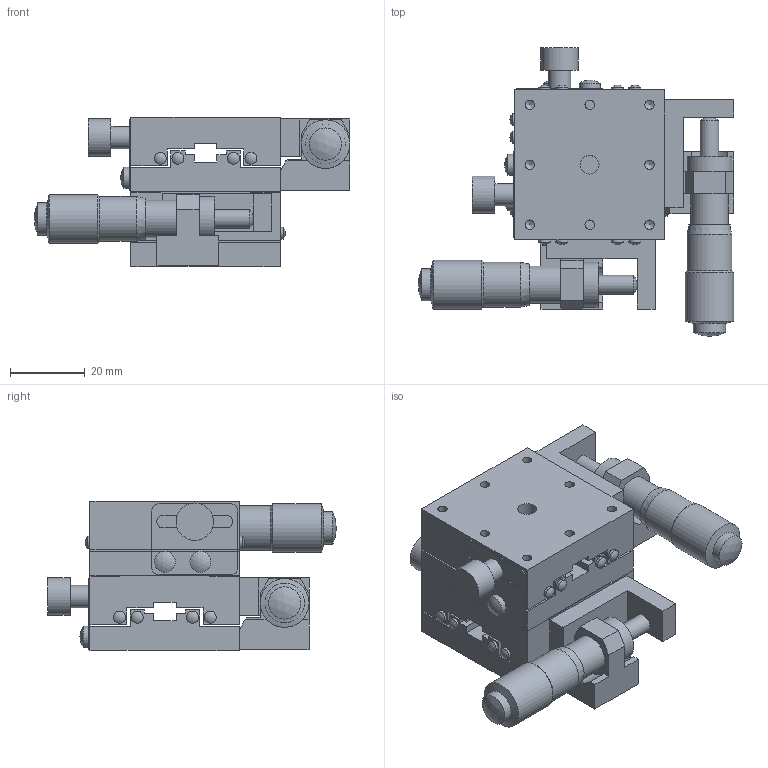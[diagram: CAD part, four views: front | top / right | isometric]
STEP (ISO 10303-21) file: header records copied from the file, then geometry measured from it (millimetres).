
FILE_DESCRIPTION( ( 'STEP AP214' ), '1' );
FILE_NAME( 'C:/Project/3D_B21-40CR-配布-070508.stp', '2007-05-08T10:42:42', ( ' ' ), ( ' ' ), 'XStep 1.0', ' ', ' ' );
FILE_SCHEMA( ( 'automotive_design' ) );
Length unit declared in the file: millimetre
Products named in the file (6): 1; 2; 3; 4; 5; 6
Bounding box: 84.3 x 77.1 x 40 mm (x, y, z)
Volume: 75757.6 mm3; surface area: 37119.9 mm2
Topology: 6 solids, 6 shells, 322 faces, 773 edges, 509 vertices
Faces by surface type: plane 172, cylinder 108, sphere 24, cone 18
Full cylindrical faces by diameter (mm): 2.5 x32, 3 x2, 3.2 x16, 3.5 x8, 5 x6, 5.6 x4, 6 x10, 8.6 x2, 10 x4, 10.5 x2, 12 x4, 13 x2
Entity records: 11249 total; most frequent: DIRECTION 1486, CARTESIAN_POINT 1442, ORIENTED_EDGE 1256, EDGE_CURVE 628, AXIS2_PLACEMENT_3D 530, EDGE_LOOP 514, VERTEX_POINT 486, LINE 426
